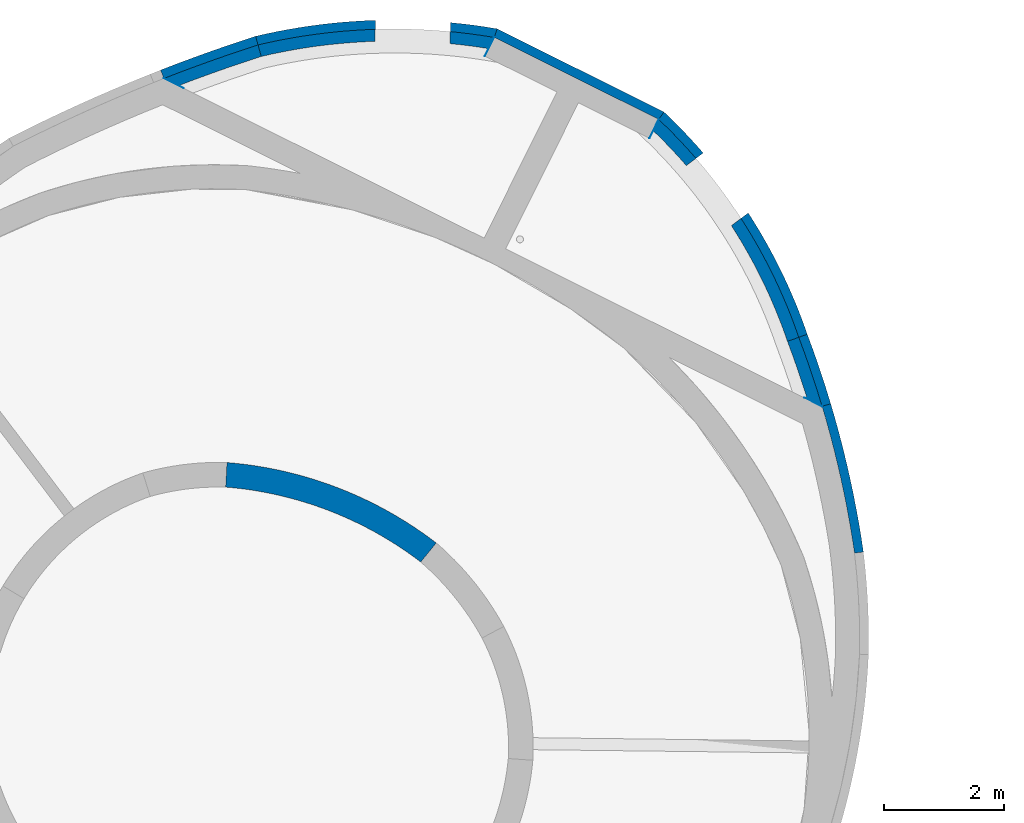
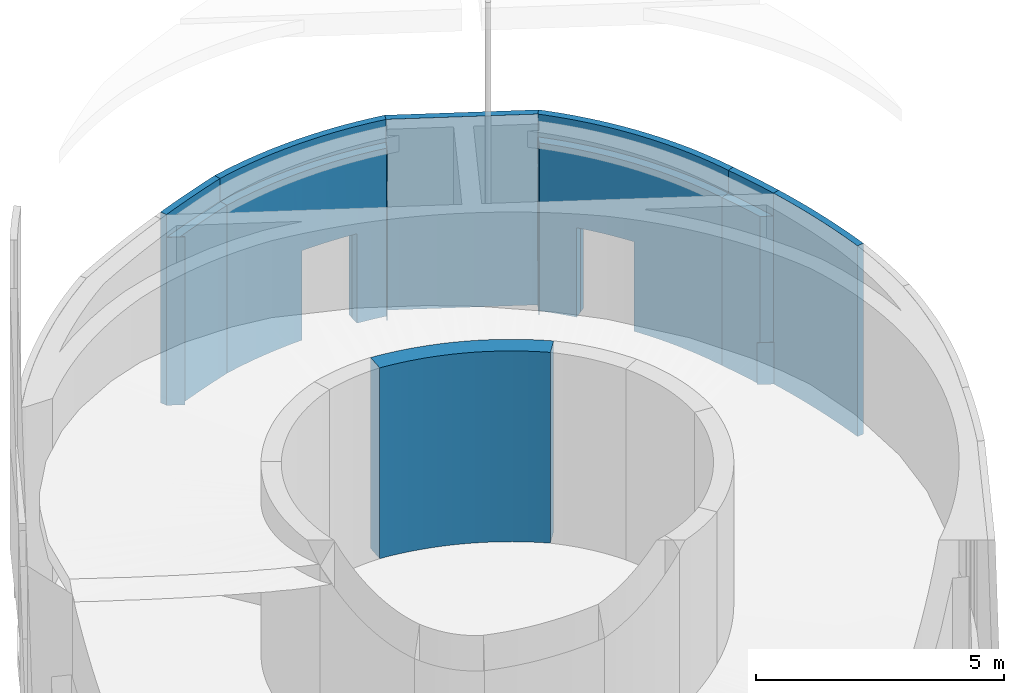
# One storey, part 20 of 91: 15 walls, 5 openings.
"""IFC2X3 building model written with IfcOpenShell, lengths in metres."""

from ifc_helpers import new_model, entity, si_unit, converted_unit, derived_unit, direction, frame, frame_2d, origin, origin_2d_with_axis, place, context, subcontext, project, spatial, polyline, circle_curve, parameter, trimmed, segment, composite_curve, rectangle, outline, extrude, clip, bounded_halfspace, material, layer, layer_set, layer_usage, type_object, element, save


model = new_model("IFC2X3")

# Units and contexts
model_context = context("Model", 3, precision=1e-05, world=origin(), true_north=direction((0.894925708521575, 0.446215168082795)))
context_of_model = context(None, 3, precision=1e-05, world=origin(), true_north=direction((0.894925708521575, 0.446215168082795)))
body_context = subcontext(model_context, "Body", "Model", "MODEL_VIEW")
ifc_project = project(units=[si_unit("LENGTHUNIT", "METRE"), si_unit("AREAUNIT", "SQUARE_METRE"), si_unit("VOLUMEUNIT", "CUBIC_METRE"), converted_unit("PLANEANGLEUNIT", "DEGREE", entity("IfcRatioMeasure", 0.0174532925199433), si_unit("PLANEANGLEUNIT", "RADIAN"), dimensions=[0, 0, 0, 0, 0, 0, 0]), si_unit("MASSUNIT", "GRAM", prefix="KILO"), si_unit("TIMEUNIT", "SECOND"), si_unit("FREQUENCYUNIT", "HERTZ"), si_unit("THERMODYNAMICTEMPERATUREUNIT", "DEGREE_CELSIUS"), derived_unit("THERMALTRANSMITTANCEUNIT", [(si_unit("MASSUNIT", "GRAM", prefix="KILO"), 1), (si_unit("THERMODYNAMICTEMPERATUREUNIT", "KELVIN"), -1), (si_unit("TIMEUNIT", "SECOND"), -3)]), derived_unit("VOLUMETRICFLOWRATEUNIT", [(si_unit("LENGTHUNIT", "METRE"), 3), (si_unit("TIMEUNIT", "SECOND"), -1)]), si_unit("ELECTRICCURRENTUNIT", "AMPERE"), si_unit("ELECTRICVOLTAGEUNIT", "VOLT"), si_unit("POWERUNIT", "WATT"), si_unit("FORCEUNIT", "NEWTON", prefix="KILO"), si_unit("ILLUMINANCEUNIT", "LUX"), si_unit("LUMINOUSFLUXUNIT", "LUMEN"), si_unit("LUMINOUSINTENSITYUNIT", "CANDELA"), si_unit("PRESSUREUNIT", "PASCAL")], contexts=[model_context, context_of_model])

# Site, building, storey
site_placement = place(None, frame((218.228324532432, 584.720189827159, 0.0), z_axis=(0.0, 0.0, 1.0), x_axis=(0.446215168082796, 0.894925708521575, 0.0)))
site = spatial("IfcSite", under=ifc_project, at=site_placement, Name="Default", CompositionType="ELEMENT")
building_placement = place(site_placement, origin())
building = spatial("IfcBuilding", under=site, at=building_placement, CompositionType="ELEMENT")
storey_placement = place(building_placement, origin())
storey = spatial("IfcBuildingStorey", under=building, at=storey_placement, Name="0 - Piano Terra", CompositionType="ELEMENT", Elevation=0.0)

# Walls
ifc_material_1 = material(Name="Intonaco - Bianco")
ifc_layer_1 = layer(ifc_material_1, 0.01)
ifc_material_2 = material(Name="Default - Calcestruzzo")
ifc_layer_2 = layer(ifc_material_2, 0.4)
ifc_layer_set_1 = layer_set([ifc_layer_1, ifc_layer_2], Name="Muro di base:Setto CA intonacato int - 41 cm")
ifc_layer_usage_1 = layer_usage(ifc_layer_set_1, "AXIS2", "POSITIVE", -0.205)
wall_type_1 = type_object("IfcWallType", Name="Muro di base:Setto CA intonacato int - 41 cm", PredefinedType="STANDARD", material=ifc_layer_set_1)
wall_1_placement = place(storey_placement, frame((74.802726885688, -1.26210765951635, 0.0), z_axis=(0.0, 0.0, 1.0), x_axis=(0.981627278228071, -0.190808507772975, 0.0)))
element("IfcWallStandardCase", 1, at=wall_1_placement, inside=storey, type_object=wall_type_1, material=ifc_layer_usage_1, Name="Muro di base:Setto CA intonacato int - 41 cm", ObjectType="Muro di base:Setto CA intonacato int - 41 cm", context=body_context, shape_type="SweptSolid", body=[
    extrude(outline(composite_curve([segment(trimmed(circle_curve(frame_2d((-5.35002966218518, -3.47022808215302), x_axis=(1.0, 0.0)), 6.58193502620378), [parameter(359.999999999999)], [parameter(32.9689408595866)], True, "PARAMETER"), True, "CONTINUOUS"), segment(polyline([(0.171987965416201, 0.111557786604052), (-0.16648051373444, -0.120063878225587)]), True, "CONTINUOUS"), segment(trimmed(circle_curve(frame_2d((-5.35002966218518, -3.47022808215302), x_axis=(1.0, 0.0)), 6.17193502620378), [parameter(0.107510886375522)], [parameter(32.8748697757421)], True, "PARAMETER"), False, "CONTINUOUS"), segment(polyline([(0.821894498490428, -3.458646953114), (1.2319053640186, -3.47022808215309)]), True, "CONTINUOUS")], self_intersect=False)), origin(), (0.0, 0.0, 1.0), 4.69),
])
ifc_material_3 = material(Name="Sabbia e Calcestruzzo")
ifc_layer_3 = layer(ifc_material_3, 0.2)
ifc_layer_set_2 = layer_set([ifc_layer_3], Name="Muro di base:Blocchetti - 20 cm")
ifc_layer_usage_2 = layer_usage(ifc_layer_set_2, "AXIS2", "NEGATIVE", 0.1)
wall_type_2 = type_object("IfcWallType", Name="Muro di base:Blocchetti - 20 cm", PredefinedType="STANDARD", material=ifc_layer_set_2)
wall_2_placement = place(storey_placement, frame((81.3780811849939, 1.38576709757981, 0.0)))
element("IfcWallStandardCase", 2, at=wall_2_placement, inside=storey, type_object=wall_type_2, material=ifc_layer_usage_2, Name="Muro di base:Blocchetti - 20 cm", ObjectType="Muro di base:Blocchetti - 20 cm", context=body_context, shape_type="SweptSolid", body=[
    extrude(outline(composite_curve([segment(trimmed(circle_curve(frame_2d((-19.5855450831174, -19.1622820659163), x_axis=(1.0, 0.0)), 27.3004859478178), [parameter(44.3909679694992)], [parameter(47.4499503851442)], True, "PARAMETER"), False, "CONTINUOUS"), segment(polyline([(-0.0770828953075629, -0.0642079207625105), (0.0714788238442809, 0.0699340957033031)]), True, "CONTINUOUS"), segment(trimmed(circle_curve(frame_2d((-19.5855450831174, -19.1622820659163), x_axis=(1.0, 0.0)), 27.5004859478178), [parameter(44.3741527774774)], [parameter(47.8312838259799)], True, "PARAMETER"), True, "CONTINUOUS"), segment(polyline([(-1.12402870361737, 1.22028745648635), (-1.12402870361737, 0.94962848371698)]), True, "CONTINUOUS")], self_intersect=False)), origin(), (0.0, 0.0, 1.0), 4.13),
])

# Wall, opening
ifc_layer_usage_3 = layer_usage(ifc_layer_set_2, "AXIS2", "NEGATIVE", 0.1)
wall_3_placement = place(storey_placement, frame((83.2198234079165, -2.03506588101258, 0.0)))
wall_3 = element("IfcWallStandardCase", 3, at=wall_3_placement, inside=storey, type_object=wall_type_2, material=ifc_layer_usage_3, Name="Muro di base:Blocchetti - 20 cm", ObjectType="Muro di base:Blocchetti - 20 cm", context=body_context, shape_type="SweptSolid", body=[
    extrude(outline(composite_curve([segment(trimmed(circle_curve(frame_2d((-9.36355997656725, -2.83596247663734), x_axis=(1.0, 0.0)), 9.68360560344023), [parameter(17.2088525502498)], [parameter(39.7539436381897)], True, "PARAMETER"), False, "CONTINUOUS"), segment(polyline([(-0.113463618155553, 0.0289868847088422), (0.0957066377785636, 0.0289868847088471)]), True, "CONTINUOUS"), segment(trimmed(circle_curve(frame_2d((-9.36355997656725, -2.83596247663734), x_axis=(1.0, 0.0)), 9.88360560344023), [parameter(16.8501042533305)], [parameter(39.801039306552)], True, "PARAMETER"), True, "CONTINUOUS"), segment(polyline([(-1.77026339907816, 3.49076707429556), (-1.91882511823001, 3.35662505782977)]), True, "CONTINUOUS")], self_intersect=False)), origin(), (0.0, 0.0, 1.0), 4.13),
])
opening_1_placement = place(wall_3_placement, frame((-2.05046943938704, 0.0860695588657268, 0.0)))
element("IfcOpeningElement", 4, at=opening_1_placement, cuts=wall_3, Name="Muro di base:Blocchetti - 20 cm", ObjectType="Opening", context=body_context, shape_type="SweptSolid", body=[
    extrude(rectangle(XDim=3.04800000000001, YDim=1.24999999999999, at=origin_2d_with_axis()), frame((1.64568981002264, 1.20535084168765, 0.0), z_axis=(0.0, 0.0, 1.0), x_axis=(0.908246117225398, 0.418436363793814, 0.0)), (0.0, 0.0, 1.0), 2.2),
])

ifc_layer_usage_4 = layer_usage(ifc_layer_set_2, "AXIS2", "NEGATIVE", 0.1)
wall_4_placement = place(storey_placement, frame((81.0363266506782, -8.71096856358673, 0.0)))
wall_4 = element("IfcWallStandardCase", 5, at=wall_4_placement, inside=storey, type_object=wall_type_2, material=ifc_layer_usage_4, Name="Muro di base:Blocchetti - 20 cm", ObjectType="Muro di base:Blocchetti - 20 cm", context=body_context, shape_type="SweptSolid", body=[
    extrude(outline(composite_curve([segment(trimmed(circle_curve(frame_2d((-6.34512301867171, 6.26393820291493), x_axis=(1.0, 0.0)), 8.81613750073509), [parameter(315.368900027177)], [parameter(342.649956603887)], True, "PARAMETER"), False, "CONTINUOUS"), segment(polyline([(-0.0711644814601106, 0.0702539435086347), (0.0734213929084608, -0.0679669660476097)]), True, "CONTINUOUS"), segment(trimmed(circle_curve(frame_2d((-6.34512301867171, 6.26393820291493), x_axis=(1.0, 0.0)), 9.01613750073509), [parameter(315.389318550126)], [parameter(343.046609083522)], True, "PARAMETER"), True, "CONTINUOUS"), segment(polyline([(2.27919369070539, 3.63488956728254), (2.0698864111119, 3.63488956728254)]), True, "CONTINUOUS")], self_intersect=False)), origin(), (0.0, 0.0, 1.0), 4.13),
])
opening_2_placement = place(wall_4_placement, frame((0.0545410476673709, 0.994846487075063, 0.0)))
element("IfcOpeningElement", 6, at=opening_2_placement, cuts=wall_4, Name="Muro di base:Blocchetti - 20 cm", ObjectType="Opening", context=body_context, shape_type="SweptSolid", body=[
    extrude(rectangle(XDim=3.048, YDim=1.24999999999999, at=frame_2d((1.11022302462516e-16, -4.44089209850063e-16), x_axis=(1.0, 0.0))), frame((1.64253352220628, 1.2412922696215, 0.0), z_axis=(0.0, 0.0, 1.0), x_axis=(0.894129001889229, -0.447809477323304, 0.0)), (0.0, 0.0, 1.0), 2.2),
])

# Walls
ifc_layer_usage_5 = layer_usage(ifc_layer_set_2, "AXIS2", "NEGATIVE", 0.1)
wall_5_placement = place(storey_placement, frame((80.1856736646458, -9.56667332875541, 0.0)))
element("IfcWallStandardCase", 7, at=wall_5_placement, inside=storey, type_object=wall_type_2, material=ifc_layer_usage_5, Name="Muro di base:Blocchetti - 20 cm", ObjectType="Muro di base:Blocchetti - 20 cm", context=body_context, shape_type="SweptSolid", body=[
    extrude(outline(composite_curve([segment(trimmed(circle_curve(frame_2d((-11.6639485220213, 12.4467738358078), x_axis=(1.0, 0.0)), 16.9578390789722), [parameter(313.776948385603)], [parameter(317.20479426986)], True, "PARAMETER"), False, "CONTINUOUS"), segment(polyline([(0.0683788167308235, 0.202558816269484), (0.0683788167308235, -0.0729680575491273)]), True, "CONTINUOUS"), segment(trimmed(circle_curve(frame_2d((-11.6639485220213, 12.4467738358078), x_axis=(1.0, 0.0)), 17.1578390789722), [parameter(313.140377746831)], [parameter(317.194121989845)], True, "PARAMETER"), True, "CONTINUOUS"), segment(polyline([(0.924074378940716, 0.787737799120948), (0.779488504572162, 0.92595870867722)]), True, "CONTINUOUS")], self_intersect=False)), origin(), (0.0, 0.0, 1.0), 4.13),
])
ifc_material_4 = material(Name="Alluminio")
ifc_layer_4 = layer(ifc_material_4, 0.15)
ifc_layer_set_3 = layer_set([ifc_layer_4], Name="Muro di base:Rivestimento 15 cm")
ifc_layer_usage_6 = layer_usage(ifc_layer_set_3, "AXIS2", "POSITIVE", -0.075)
wall_type_3 = type_object("IfcWallType", Name="Muro di base:Rivestimento 15 cm", PredefinedType="STANDARD", material=ifc_layer_set_3)
wall_6_placement = place(storey_placement, frame((80.2995284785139, 2.66605479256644, 0.0)))
element("IfcWallStandardCase", 8, at=wall_6_placement, inside=storey, type_object=wall_type_3, material=ifc_layer_usage_6, Name="Muro di base:Rivestimento 15 cm", ObjectType="Muro di base:Rivestimento 15 cm", context=body_context, shape_type="SweptSolid", body=[
    extrude(outline(composite_curve([segment(polyline([(0.0503354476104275, 0.0555998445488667), (-0.0503354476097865, -0.0555998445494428)]), True, "CONTINUOUS"), segment(trimmed(circle_curve(frame_2d((-18.5069923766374, -20.4425697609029), x_axis=(1.0, 0.0)), 27.5004859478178), [parameter(47.8312838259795)], [parameter(47.8449423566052)], True, "PARAMETER"), False, "CONTINUOUS"), segment(trimmed(circle_curve(frame_2d((-18.5069923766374, -20.4425697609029), x_axis=(1.0, 0.0)), 27.5004859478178), [parameter(44.3741527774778)], [parameter(47.8312838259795)], True, "PARAMETER"), False, "CONTINUOUS"), segment(polyline([(1.15003153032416, -1.2103535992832), (1.26142780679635, -1.10972370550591)]), True, "CONTINUOUS"), segment(trimmed(circle_curve(frame_2d((-18.5069923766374, -20.4425697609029), x_axis=(1.0, 0.0)), 27.6504859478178), [parameter(44.3617718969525)], [parameter(47.8449423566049)], True, "PARAMETER"), True, "CONTINUOUS")], self_intersect=False)), origin(), (0.0, 0.0, 1.0), 4.69),
])

# Wall, openings
ifc_layer_usage_7 = layer_usage(ifc_layer_set_3, "AXIS2", "POSITIVE", -0.075)
wall_7_placement = place(storey_placement, frame((81.5033646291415, 1.508287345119, 0.0)))
wall_7 = element("IfcWallStandardCase", 9, at=wall_7_placement, inside=storey, type_object=wall_type_3, material=ifc_layer_usage_7, Name="Muro di base:Rivestimento 15 cm", ObjectType="Muro di base:Rivestimento 15 cm", context=body_context, shape_type="SweptSolid", body=[
    extrude(outline(composite_curve([segment(trimmed(circle_curve(frame_2d((-7.64710119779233, -6.37931570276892), x_axis=(1.0, 0.0)), 10.0336056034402), [parameter(16.6927177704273)], [parameter(39.8353229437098)], True, "PARAMETER"), True, "CONTINUOUS"), segment(polyline([(0.0575916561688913, 0.0480437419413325), (-0.053804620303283, -0.0525861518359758)]), True, "CONTINUOUS"), segment(trimmed(circle_curve(frame_2d((-7.64710119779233, -6.37931570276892), x_axis=(1.0, 0.0)), 9.88360560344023), [parameter(16.8501042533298)], [parameter(39.8010393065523)], True, "PARAMETER"), False, "CONTINUOUS"), segment(trimmed(circle_curve(frame_2d((-7.64710119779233, -6.37931570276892), x_axis=(1.0, 0.0)), 9.88360560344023), [parameter(16.8198211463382)], [parameter(16.8501042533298)], True, "PARAMETER"), False, "CONTINUOUS"), segment(polyline([(1.81367833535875, -3.51936634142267), (1.96367833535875, -3.49727507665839)]), True, "CONTINUOUS")], self_intersect=False)), origin(), (0.0, 0.0, 1.0), 4.69),
])
opening_3_placement = place(wall_7_placement, frame((1.05090265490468, -2.81439296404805, 0.0)))
element("IfcOpeningElement", 10, at=opening_3_placement, cuts=wall_7, Name="Muro di base:Rivestimento 15 cm", ObjectType="Opening", context=body_context, shape_type="SweptSolid", body=[
    extrude(outline(composite_curve([segment(trimmed(circle_curve(frame_2d((-9.02662019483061, -4.15993652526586), x_axis=(1.0, 0.0)), 10.0336056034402), [parameter(21.1525242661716)], [parameter(28.3328969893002)], True, "PARAMETER"), True, "CONTINUOUS"), segment(polyline([(-0.194990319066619, 0.601949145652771), (-0.32702106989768, 0.530760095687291)]), True, "CONTINUOUS"), segment(trimmed(circle_curve(frame_2d((-9.02662019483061, -4.15993652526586), x_axis=(1.0, 0.0)), 9.88360560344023), [parameter(21.152524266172)], [parameter(28.3328969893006)], True, "PARAMETER"), False, "CONTINUOUS"), segment(polyline([(0.191058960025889, -0.593418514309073), (0.330952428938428, -0.539290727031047)]), True, "CONTINUOUS")], self_intersect=False)), frame((0.328616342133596, 0.595013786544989, 0.0)), (0.0, 0.0, 1.0), 2.2),
])
opening_4_placement = place(wall_7_placement, frame((-0.334010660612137, -3.45728366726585, 0.0)))
element("IfcOpeningElement", 11, at=opening_4_placement, cuts=wall_7, Name="Muro di base:Rivestimento 15 cm", ObjectType="Opening", context=body_context, shape_type="SweptSolid", body=[
    extrude(rectangle(XDim=3.04800000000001, YDim=1.24999999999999, at=origin_2d_with_axis()), frame((1.64568981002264, 1.20535084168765, 0.0), z_axis=(0.0, 0.0, 1.0), x_axis=(0.908246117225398, 0.418436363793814, 0.0)), (0.0, 0.0, 1.0), 2.2),
])

# Wall
ifc_layer_usage_8 = layer_usage(ifc_layer_set_3, "AXIS2", "NEGATIVE", 0.075)
wall_8_placement = place(storey_placement, frame((83.3920429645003, -1.98898773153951, 0.0), z_axis=(0.0, 0.0, 1.0), x_axis=(0.0, -1.0, 0.0)))
element("IfcWallStandardCase", 12, at=wall_8_placement, inside=storey, type_object=wall_type_3, material=ifc_layer_usage_8, Name="Muro di base:Rivestimento 15 cm", ObjectType="Muro di base:Rivestimento 15 cm", context=body_context, shape_type="SweptSolid", body=[
    extrude(outline(polyline([(3.08209126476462, -0.0750000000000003), (3.10430805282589, 0.0750000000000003), (0.0, 0.0750000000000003), (0.0220912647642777, -0.0750000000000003), (3.08209126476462, -0.0750000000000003)])), origin(), (0.0, 0.0, 1.0), 4.69),
])

# Wall, opening
ifc_layer_usage_9 = layer_usage(ifc_layer_set_3, "AXIS2", "POSITIVE", -0.075)
wall_9_placement = place(storey_placement, frame((83.3952364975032, -5.07164327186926, 0.0)))
wall_9 = element("IfcWallStandardCase", 13, at=wall_9_placement, inside=storey, type_object=wall_type_3, material=ifc_layer_usage_9, Name="Muro di base:Rivestimento 15 cm", ObjectType="Muro di base:Rivestimento 15 cm", context=body_context, shape_type="SweptSolid", body=[
    extrude(outline(composite_curve([segment(trimmed(circle_curve(frame_2d((-8.70403286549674, 2.62461291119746), x_axis=(1.0, 0.0)), 9.16613750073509), [parameter(315.404115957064)], [parameter(343.219847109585)], True, "PARAMETER"), True, "CONTINUOUS"), segment(polyline([(0.0718064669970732, -0.0216525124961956), (-0.0781935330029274, 0.000564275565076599)]), True, "CONTINUOUS"), segment(trimmed(circle_curve(frame_2d((-8.70403286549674, 2.62461291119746), x_axis=(1.0, 0.0)), 9.01613750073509), [parameter(315.389318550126)], [parameter(343.07982372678)], True, "PARAMETER"), False, "CONTINUOUS"), segment(polyline([(-2.28548845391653, -3.70729225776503), (-2.17704189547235, -3.81094965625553)]), True, "CONTINUOUS")], self_intersect=False)), origin(), (0.0, 0.0, 1.0), 4.69),
])
opening_5_placement = place(wall_9_placement, frame((-2.30436879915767, -2.6444788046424, 0.0)))
element("IfcOpeningElement", 14, at=opening_5_placement, cuts=wall_9, Name="Muro di base:Rivestimento 15 cm", ObjectType="Opening", context=body_context, shape_type="SweptSolid", body=[
    extrude(rectangle(XDim=3.048, YDim=1.24999999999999, at=frame_2d((1.11022302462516e-16, -4.44089209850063e-16), x_axis=(1.0, 0.0))), frame((1.64253352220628, 1.2412922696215, 0.0), z_axis=(0.0, 0.0, 1.0), x_axis=(0.894129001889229, -0.447809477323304, 0.0)), (0.0, 0.0, 1.0), 2.2),
])

# Walls
ifc_layer_usage_10 = layer_usage(ifc_layer_set_3, "AXIS2", "POSITIVE", -0.075)
wall_10_placement = place(storey_placement, frame((81.1647725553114, -8.82989927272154, 0.0)))
element("IfcWallStandardCase", 15, at=wall_10_placement, inside=storey, type_object=wall_type_3, material=ifc_layer_usage_10, Name="Muro di base:Rivestimento 15 cm", ObjectType="Muro di base:Rivestimento 15 cm", context=body_context, shape_type="SweptSolid", body=[
    extrude(outline(composite_curve([segment(polyline([(0.0534220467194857, -0.052693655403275), (-0.0550245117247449, 0.0509637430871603)]), True, "CONTINUOUS"), segment(trimmed(circle_curve(frame_2d((-12.6430474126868, 11.7099997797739), x_axis=(1.0, 0.0)), 17.1578390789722), [parameter(313.140377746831)], [parameter(317.194121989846)], True, "PARAMETER"), False, "CONTINUOUS"), segment(polyline([(-0.910720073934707, -0.809742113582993), (-0.808151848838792, -0.919194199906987)]), True, "CONTINUOUS"), segment(trimmed(circle_curve(frame_2d((-12.6430474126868, 11.7099997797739), x_axis=(1.0, 0.0)), 17.3078390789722), [parameter(313.14037774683)], [parameter(317.1863158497)], True, "PARAMETER"), True, "CONTINUOUS")], self_intersect=False)), origin(), (0.0, 0.0, 1.0), 4.69),
])
ifc_layer_usage_11 = layer_usage(ifc_layer_set_3, "AXIS2", "POSITIVE", -0.075)
wall_11_placement = place(storey_placement, frame((80.3053365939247, -9.6943674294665, 0.0)))
element("IfcWallStandardCase", 16, at=wall_11_placement, inside=storey, type_object=wall_type_3, material=ifc_layer_usage_11, Name="Muro di base:Rivestimento 15 cm", ObjectType="Muro di base:Rivestimento 15 cm", context=body_context, shape_type="SweptSolid", body=[
    extrude(outline(composite_curve([segment(trimmed(circle_curve(frame_2d((-11.7836114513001, 12.5744679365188), x_axis=(1.0, 0.0)), 17.3078390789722), [parameter(304.763123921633)], [parameter(313.14037774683)], True, "PARAMETER"), True, "CONTINUOUS"), segment(polyline([(0.0512841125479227, -0.0547260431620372), (-0.051284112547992, 0.054726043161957)]), True, "CONTINUOUS"), segment(trimmed(circle_curve(frame_2d((-11.7836114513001, 12.5744679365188), x_axis=(1.0, 0.0)), 17.1578390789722), [parameter(304.769535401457)], [parameter(313.140377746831)], True, "PARAMETER"), False, "CONTINUOUS"), segment(polyline([(-1.99889258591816, -1.51988265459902), (-1.91494208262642, -1.64420494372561)]), True, "CONTINUOUS")], self_intersect=False)), origin(), (0.0, 0.0, 1.0), 4.69),
])
ifc_layer_5 = layer(ifc_material_3, 0.005)
ifc_layer_set_4 = layer_set([ifc_layer_5], Name="Muro di base:Malta di raccordo")
ifc_layer_usage_12 = layer_usage(ifc_layer_set_4, "AXIS2", "NEGATIVE", 0.0025)
wall_type_4 = type_object("IfcWallType", Name="Muro di base:Malta di raccordo", PredefinedType="STANDARD", material=ifc_layer_set_4)
wall_12_placement = place(storey_placement, frame((80.2515524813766, -9.30955738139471, 0.0), z_axis=(0.0, 0.0, 1.0), x_axis=(0.0, -1.0, 0.0)))
element("IfcWallStandardCase", 17, at=wall_12_placement, inside=storey, type_object=wall_type_4, material=ifc_layer_usage_12, Name="Muro di base:Malta di raccordo", ObjectType="Muro di base:Malta di raccordo", context=body_context, shape_type="SweptSolid", body=[
    extrude(outline(composite_curve([segment(trimmed(circle_curve(frame_2d((-12.1896578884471, -11.7298273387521), x_axis=(0.0, 1.0)), 17.1578390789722), [parameter(313.117499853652)], [parameter(313.140377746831)], True, "PARAMETER"), True, "CONTINUOUS"), segment(polyline([(0.330084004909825, 0.00250000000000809), (0.0545571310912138, 0.00250000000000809)]), True, "CONTINUOUS"), segment(polyline([(0.0545571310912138, 0.00250000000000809), (0.0, 0.00250000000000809)]), True, "CONTINUOUS"), segment(polyline([(0.0, 0.00250000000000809), (0.0, -0.00249999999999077)]), True, "CONTINUOUS"), segment(polyline([(0.0, -0.00249999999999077), (0.334767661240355, -0.00249999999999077)]), True, "CONTINUOUS")], self_intersect=False)), origin(), (0.0, 0.0, 1.0), 1.03),
])
ifc_layer_usage_13 = layer_usage(ifc_layer_set_4, "AXIS2", "NEGATIVE", 0.0025)
wall_13_placement = place(storey_placement, frame((80.2515524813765, 2.61029976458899, 0.0), z_axis=(0.0, 0.0, 1.0), x_axis=(0.0, -1.0, 0.0)))
element("IfcWallStandardCase", 18, at=wall_13_placement, inside=storey, type_object=wall_type_4, material=ifc_layer_usage_13, Name="Muro di base:Malta di raccordo", ObjectType="Muro di base:Malta di raccordo", context=body_context, shape_type="Clipping", body=[
    clip(extrude(outline(composite_curve([segment(trimmed(circle_curve(frame_2d((20.3868147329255, -18.4590163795), x_axis=(0.0, 1.0)), 27.5004859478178), [parameter(47.8312838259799)], [parameter(47.8449424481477)], True, "PARAMETER"), True, "CONTINUOUS"), segment(polyline([(-0.000155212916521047, -0.00235948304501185), (0.0, -0.00250000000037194)]), True, "CONTINUOUS"), segment(polyline([(0.0, -0.00249999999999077), (0.37137876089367, -0.00249999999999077)]), True, "CONTINUOUS"), segment(polyline([(0.37137876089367, -0.00249999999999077), (0.37137876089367, 0.00250000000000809)]), True, "CONTINUOUS"), segment(polyline([(0.37137876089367, 0.00250000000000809), (0.274904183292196, 0.00250000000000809)]), True, "CONTINUOUS"), segment(polyline([(0.274904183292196, 0.00250000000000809), (0.00424521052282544, 0.00250000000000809)]), True, "CONTINUOUS")], self_intersect=False)), origin(), (0.0, 0.0, 1.0), 4.13), bounded_halfspace(frame((0.0, -0.00249999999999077, 0.0), z_axis=(0.671139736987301, 0.74133086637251, 0.0), x_axis=(0.0, 0.0, -1.0)), True, frame((0.0, -0.00249999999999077, 0.0), z_axis=(0.671139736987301, 0.74133086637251, 0.0), x_axis=(0.0, 0.0, -1.0)), polyline([(0.0, 0.0), (0.0, 0.000209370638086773), (-4.13, 0.000209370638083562), (-4.13, 0.0), (0.0, 0.0)]))),
])
ifc_layer_usage_14 = layer_usage(ifc_layer_set_4, "AXIS2", "NEGATIVE", 0.0025)
wall_14_placement = place(storey_placement, frame((83.3170429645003, -5.07357899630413, 0.0), z_axis=(0.0, 0.0, 1.0), x_axis=(-1.0, 0.0, 0.0)))
element("IfcWallStandardCase", 19, at=wall_14_placement, inside=storey, type_object=wall_type_4, material=ifc_layer_usage_14, Name="Muro di base:Malta di raccordo", ObjectType="Muro di base:Malta di raccordo", context=body_context, shape_type="SweptSolid", body=[
    extrude(outline(composite_curve([segment(polyline([(0.347990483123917, -0.00249999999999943), (0.347990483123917, 0.00250000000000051)]), True, "CONTINUOUS"), segment(polyline([(0.347990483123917, 0.00250000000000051), (0.00152262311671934, 0.00250000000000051)]), True, "CONTINUOUS"), segment(trimmed(circle_curve(frame_2d((8.62583933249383, -2.62654863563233), x_axis=(-1.0, 0.0)), 9.01613750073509), [parameter(343.046609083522)], [parameter(343.07982372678)], True, "PARAMETER"), True, "CONTINUOUS"), segment(polyline([(0.0, -0.00249999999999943), (0.347990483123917, -0.00249999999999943)]), True, "CONTINUOUS")], self_intersect=False)), origin(), (0.0, 0.0, 1.0), 4.13),
])
ifc_layer_usage_15 = layer_usage(ifc_layer_set_4, "AXIS2", "NEGATIVE", 0.0025)
wall_15_placement = place(storey_placement, frame((82.9690524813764, -2.00857899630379, 0.0)))
element("IfcWallStandardCase", 20, at=wall_15_placement, inside=storey, type_object=wall_type_4, material=ifc_layer_usage_15, Name="Muro di base:Malta di raccordo", ObjectType="Muro di base:Malta di raccordo", context=body_context, shape_type="SweptSolid", body=[
    extrude(outline(composite_curve([segment(trimmed(circle_curve(frame_2d((-9.11278905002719, -2.86244936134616), x_axis=(1.0, 0.0)), 9.88360560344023), [parameter(16.8198211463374)], [parameter(16.8501042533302)], True, "PARAMETER"), True, "CONTINUOUS"), segment(polyline([(0.346477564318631, 0.00249999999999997), (0.0, 0.00249999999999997)]), True, "CONTINUOUS"), segment(polyline([(0.0, 0.00249999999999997), (0.0, -0.00249999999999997)]), True, "CONTINUOUS"), segment(polyline([(0.0, -0.00249999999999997), (0.347990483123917, -0.00249999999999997)]), True, "CONTINUOUS")], self_intersect=False)), origin(), (0.0, 0.0, 1.0), 4.13),
])

save(model, "model.ifc")
